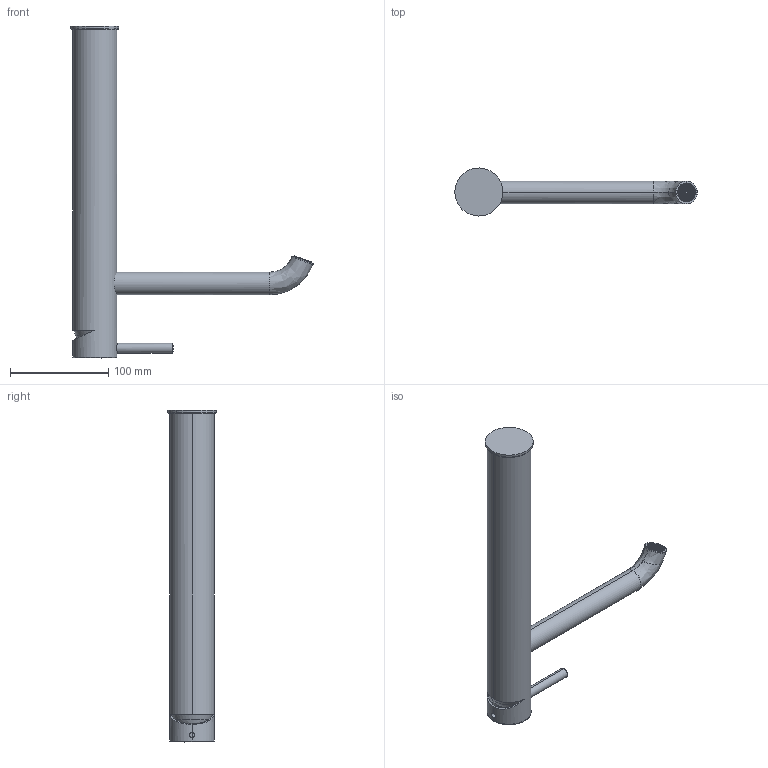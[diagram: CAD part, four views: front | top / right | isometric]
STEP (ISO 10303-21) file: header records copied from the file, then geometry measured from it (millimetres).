
FILE_DESCRIPTION (( 'STEP AP214' ), '1' );
FILE_NAME ('12301810 x architetti.STEP', '2025-04-05T04:40:40', ( '' ), ( '' ), 'SwSTEP 2.0', 'SolidWorks 2020', '' );
FILE_SCHEMA (( 'AUTOMOTIVE_DESIGN' ));
Length unit declared in the file: millimetre
Products named in the file (1): 12301810 x architetti
Bounding box: 246.86 x 48.99 x 338.14 mm (x, y, z)
Volume: 578425.7 mm3; surface area: 149061.6 mm2
Topology: 3 solids, 5 shells, 3980 faces, 11477 edges, 7421 vertices
Faces by surface type: plane 3352, cylinder 449, bspline 146, cone 25, sphere 4, torus 4
Entity records: 187551 total; most frequent: CARTESIAN_POINT 50290, ORIENTED_EDGE 22950, DIRECTION 13954, EDGE_CURVE 11475, VERTEX_POINT 7421, LINE 5260, VECTOR 5260, B_SPLINE_CURVE_WITH_KNOTS 5051
